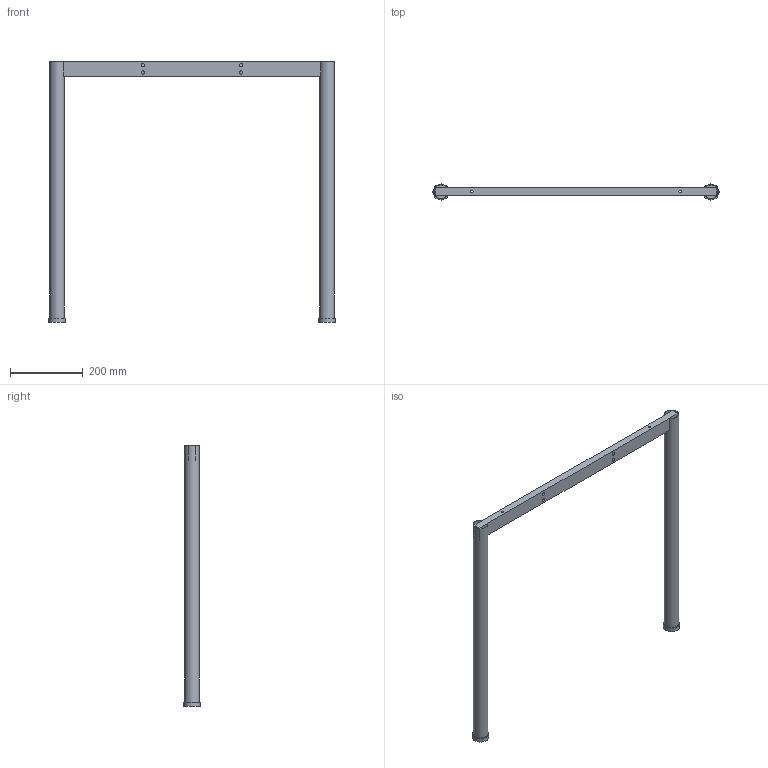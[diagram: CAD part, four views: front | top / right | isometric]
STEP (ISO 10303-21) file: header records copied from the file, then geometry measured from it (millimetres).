
FILE_DESCRIPTION( ( 'STEP AP214' ), '1' );
FILE_NAME( 'D:/Yug/2021/Delta/desk_and_office_organisation/QC/45976.stp', '2021-01-19T12:23:08', ( '' ), ( '' ), ' ', 'PARTsolutions', ' ' );
FILE_SCHEMA( ( 'AUTOMOTIVE_DESIGN { 1 0 10303 214 1 1 1 1 }' ) );
Length unit declared in the file: millimetre
Products named in the file (1): _45976
Bounding box: 784 x 44 x 715 mm (x, y, z)
Volume: 818255.3 mm3; surface area: 447157.3 mm2
Topology: 1 solids, 1 shells, 34 faces, 76 edges, 52 vertices
Faces by surface type: plane 22, cylinder 12
Full cylindrical faces by diameter (mm): 7 x2, 9 x4, 38 x2, 40 x2, 44 x2
Entity records: 1124 total; most frequent: DIRECTION 154, CARTESIAN_POINT 135, ORIENTED_EDGE 112, AXIS2_PLACEMENT_3D 63, EDGE_LOOP 58, EDGE_CURVE 56, FACE_OUTER_BOUND 46, VERTEX_POINT 44
